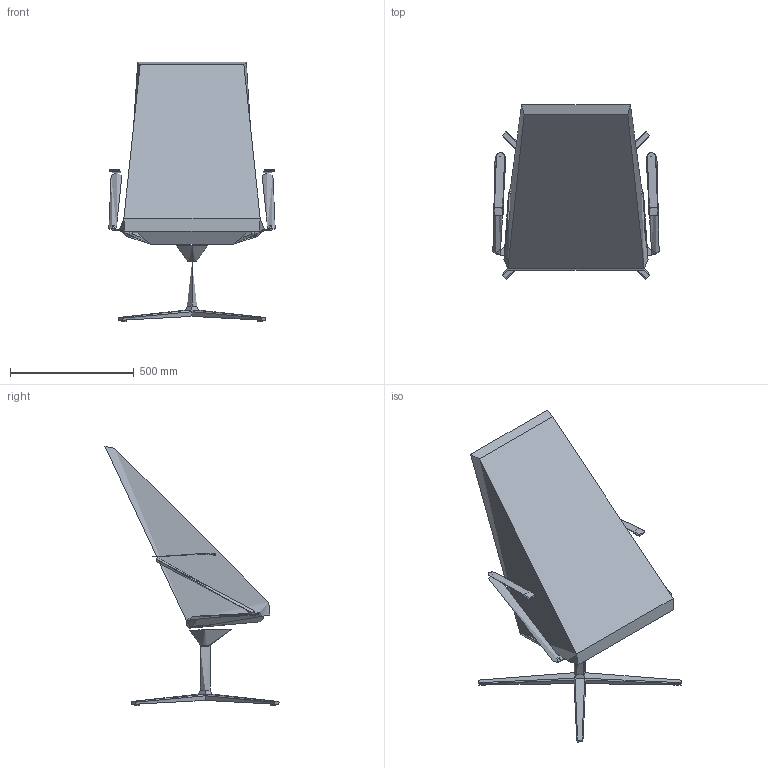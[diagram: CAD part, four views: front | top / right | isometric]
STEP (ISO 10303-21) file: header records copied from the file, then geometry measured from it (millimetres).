
FILE_DESCRIPTION(/* description */ (''),/* implementation_level */ '2;1');
FILE_NAME(/* name */ 'SKYV-F~3',/* time_stamp */ '2017-05-03T16:51:52+02:00',/* author */ (''),/* organization */ (''),/* preprocessor_version */ 'ST-DEVELOPER v15',/* originating_system */ '',/* authorisation */ '');
FILE_SCHEMA (('CONFIG_CONTROL_DESIGN'));
Length unit declared in the file: millimetre
Products named in the file (1): Document
Bounding box: 672.01 x 703.73 x 1048.01 mm (x, y, z)
Volume: 45893935.8 mm3; surface area: 1794316.2 mm2
Topology: 5 solids, 12 shells, 191 faces, 458 edges, 279 vertices
Faces by surface type: bspline 147, plane 44
Entity records: 26225 total; most frequent: CARTESIAN_POINT 23597, ORIENTED_EDGE 861, EDGE_CURVE 451, VERTEX_POINT 277, EDGE_LOOP 192, ADVANCED_FACE 191, FACE_OUTER_BOUND 191, B_SPLINE_CURVE_WITH_KNOTS 175
